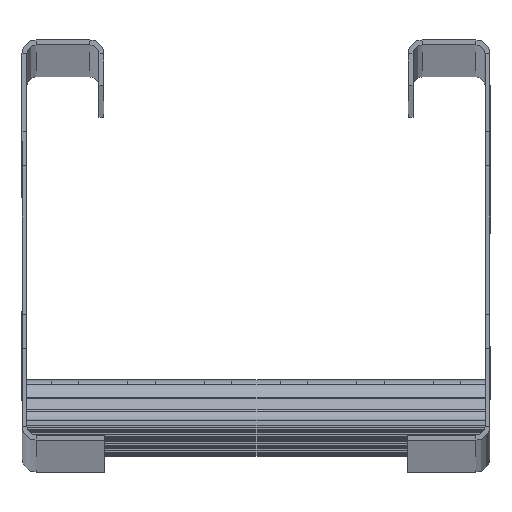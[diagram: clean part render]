
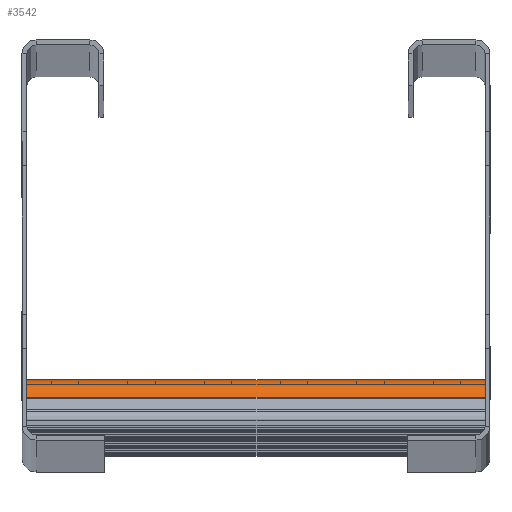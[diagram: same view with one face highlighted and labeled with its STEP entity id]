
A CAD part, top view. The second image highlights one B-rep face of the part: STEP entity #3542.
In plain terms, the highlighted cylindrical face has radius 8.1 mm (diameter 16.2 mm), a partial arc.
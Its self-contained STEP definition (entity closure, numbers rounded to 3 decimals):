
#79 = VECTOR ( 'NONE', #3377, 1000. ) ;
#345 = EDGE_CURVE ( 'NONE', #8305, #379, #5032, .T. ) ;
#379 = VERTEX_POINT ( 'NONE', #2033 ) ;
#552 = DIRECTION ( 'NONE',  ( 1., 0., 0. ) ) ;
#1265 = ORIENTED_EDGE ( 'NONE', *, *, #3497, .T. ) ;
#1417 = DIRECTION ( 'NONE',  ( 1., 0., 0. ) ) ;
#1613 = LINE ( 'NONE', #5081, #79 ) ;
#1935 = CARTESIAN_POINT ( 'NONE',  ( -75., 15., 7.7 ) ) ;
#1981 = DIRECTION ( 'NONE',  ( -1., 0., 0. ) ) ;
#1990 = DIRECTION ( 'NONE',  ( -1., 0., 0. ) ) ;
#2007 = VERTEX_POINT ( 'NONE', #5184 ) ;
#2033 = CARTESIAN_POINT ( 'NONE',  ( -75., 9.268, 15.446 ) ) ;
#2177 = EDGE_LOOP ( 'NONE', ( #3300, #5614, #3093, #1265 ) ) ;
#2301 = AXIS2_PLACEMENT_3D ( 'NONE', #8346, #552, #6528 ) ;
#3005 = DIRECTION ( 'NONE',  ( 0., 0., 1. ) ) ;
#3093 = ORIENTED_EDGE ( 'NONE', *, *, #10175, .F. ) ;
#3300 = ORIENTED_EDGE ( 'NONE', *, *, #7226, .T. ) ;
#3377 = DIRECTION ( 'NONE',  ( -1., 0., 0. ) ) ;
#3393 = AXIS2_PLACEMENT_3D ( 'NONE', #10765, #1981, #3005 ) ;
#3497 = EDGE_CURVE ( 'NONE', #6253, #2007, #9586, .T. ) ;
#3542 = ADVANCED_FACE ( 'NONE', ( #8403 ), #6755, .T. ) ;
#3851 = CARTESIAN_POINT ( 'NONE',  ( -75., 15., 7.7 ) ) ;
#4291 = AXIS2_PLACEMENT_3D ( 'NONE', #5957, #1417, #8296 ) ;
#5032 = CIRCLE ( 'NONE', #2301, 8.1 ) ;
#5081 = CARTESIAN_POINT ( 'NONE',  ( -75., 9.268, 15.446 ) ) ;
#5184 = CARTESIAN_POINT ( 'NONE',  ( 75., 15., 7.7 ) ) ;
#5614 = ORIENTED_EDGE ( 'NONE', *, *, #345, .T. ) ;
#5957 = CARTESIAN_POINT ( 'NONE',  ( -150.297, 6.9, 7.7 ) ) ;
#6253 = VERTEX_POINT ( 'NONE', #9103 ) ;
#6528 = DIRECTION ( 'NONE',  ( 0., 0., -1. ) ) ;
#6755 = CYLINDRICAL_SURFACE ( 'NONE', #4291, 8.1 ) ;
#7226 = EDGE_CURVE ( 'NONE', #2007, #8305, #10721, .T. ) ;
#7665 = VECTOR ( 'NONE', #1990, 1000. ) ;
#8296 = DIRECTION ( 'NONE',  ( 0., 0., -1. ) ) ;
#8305 = VERTEX_POINT ( 'NONE', #3851 ) ;
#8346 = CARTESIAN_POINT ( 'NONE',  ( -75., 6.9, 7.7 ) ) ;
#8403 = FACE_OUTER_BOUND ( 'NONE', #2177, .T. ) ;
#9103 = CARTESIAN_POINT ( 'NONE',  ( 75., 9.268, 15.446 ) ) ;
#9586 = CIRCLE ( 'NONE', #3393, 8.1 ) ;
#10175 = EDGE_CURVE ( 'NONE', #6253, #379, #1613, .T. ) ;
#10721 = LINE ( 'NONE', #1935, #7665 ) ;
#10765 = CARTESIAN_POINT ( 'NONE',  ( 75., 6.9, 7.7 ) ) ;
